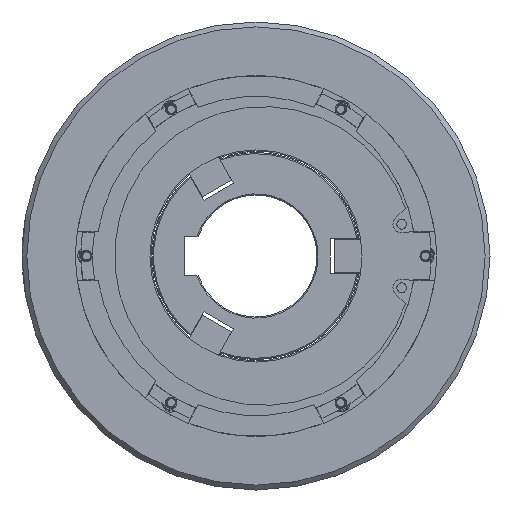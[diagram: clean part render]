
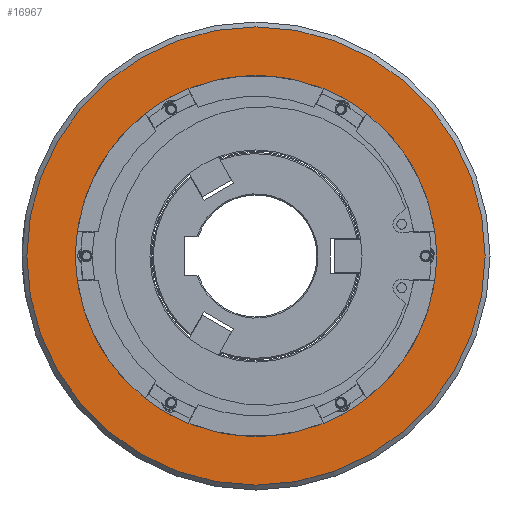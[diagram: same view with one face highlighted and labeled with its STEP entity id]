
A CAD part, left-side view. The second image highlights one B-rep face of the part: STEP entity #16967.
In plain terms, the highlighted planar face has unit normal (-1, 0, 0).
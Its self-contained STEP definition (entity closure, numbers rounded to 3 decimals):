
#1096=FACE_BOUND('',#5189,.T.);
#3604=PLANE('',#18222);
#4230=FACE_OUTER_BOUND('',#5188,.T.);
#5188=EDGE_LOOP('',(#12960));
#5189=EDGE_LOOP('',(#12961,#12962));
#6479=CIRCLE('',#18221,94.);
#6480=CIRCLE('',#18223,74.);
#6481=CIRCLE('',#18224,74.);
#7854=VERTEX_POINT('',#45438);
#7855=VERTEX_POINT('',#45442);
#7856=VERTEX_POINT('',#45443);
#9808=EDGE_CURVE('',#7854,#7854,#6479,.T.);
#9809=EDGE_CURVE('',#7855,#7856,#6480,.T.);
#9810=EDGE_CURVE('',#7856,#7855,#6481,.T.);
#12960=ORIENTED_EDGE('',*,*,#9808,.F.);
#12961=ORIENTED_EDGE('',*,*,#9809,.T.);
#12962=ORIENTED_EDGE('',*,*,#9810,.T.);
#16967=ADVANCED_FACE('',(#4230,#1096),#3604,.T.);
#18221=AXIS2_PLACEMENT_3D('',#45440,#20852,#20853);
#18222=AXIS2_PLACEMENT_3D('',#45441,#20854,#20855);
#18223=AXIS2_PLACEMENT_3D('',#45444,#20856,#20857);
#18224=AXIS2_PLACEMENT_3D('',#45445,#20858,#20859);
#20852=DIRECTION('center_axis',(1.,0.,0.));
#20853=DIRECTION('ref_axis',(0.,-1.,0.));
#20854=DIRECTION('center_axis',(-1.,0.,0.));
#20855=DIRECTION('ref_axis',(0.,0.,
1.));
#20856=DIRECTION('center_axis',(1.,0.,0.));
#20857=DIRECTION('ref_axis',(0.,1.,0.));
#20858=DIRECTION('center_axis',(1.,0.,0.));
#20859=DIRECTION('ref_axis',(0.,1.,0.));
#45438=CARTESIAN_POINT('',(-6.176,94.,0.));
#45440=CARTESIAN_POINT('Origin',(-6.176,0.,0.));
#45441=CARTESIAN_POINT('Origin',(-6.176,85.,0.));
#45442=CARTESIAN_POINT('',(-6.176,74.,0.));
#45443=CARTESIAN_POINT('',(-6.176,-74.,0.));
#45444=CARTESIAN_POINT('Origin',(-6.176,0.,0.));
#45445=CARTESIAN_POINT('Origin',(-6.176,0.,0.));
